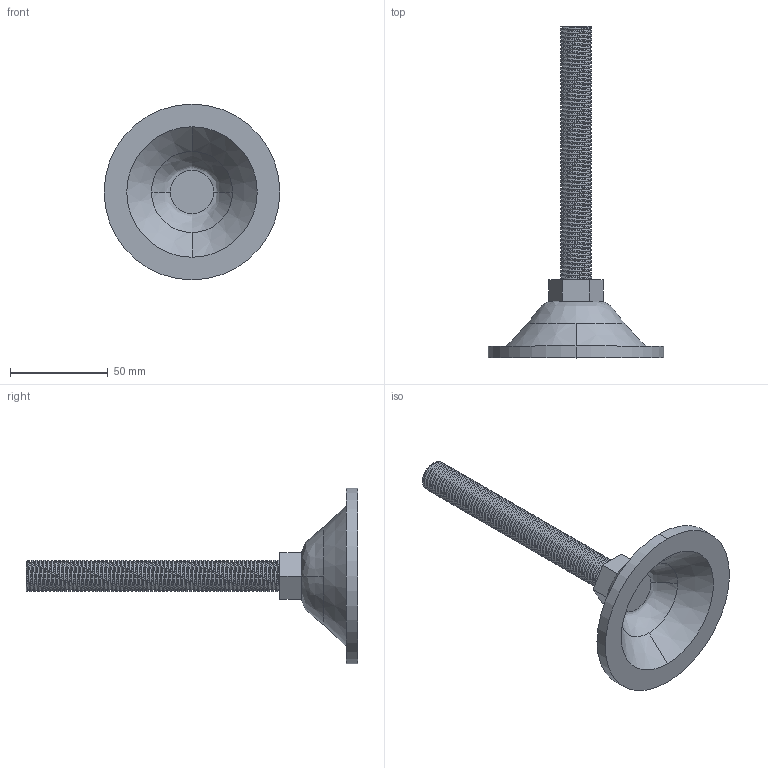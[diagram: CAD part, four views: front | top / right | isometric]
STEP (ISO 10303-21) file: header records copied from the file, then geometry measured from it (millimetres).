
FILE_DESCRIPTION (( 'STEP AP203' ), '1' );
FILE_NAME ('D90XM16X130 嶽務諳.STEP', '2015-12-17T09:22:52', ( '' ), ( '' ), 'SwSTEP 2.0', 'SolidWorks 2013', '' );
FILE_SCHEMA (( 'CONFIG_CONTROL_DESIGN' ));
Length unit declared in the file: millimetre
Products named in the file (1): D90XM16X130 嶽務諳
Bounding box: 90 x 170 x 90 mm (x, y, z)
Volume: 77215.4 mm3; surface area: 28526.6 mm2
Topology: 1 solids, 1 shells, 167 faces, 480 edges, 319 vertices
Faces by surface type: cylinder 139, plane 13, bspline 7, torus 4, cone 4
Entity records: 11199 total; most frequent: CARTESIAN_POINT 7565, ORIENTED_EDGE 960, DIRECTION 554, EDGE_CURVE 480, VERTEX_POINT 319, AXIS2_PLACEMENT_3D 195, EDGE_LOOP 171, FACE_OUTER_BOUND 167
